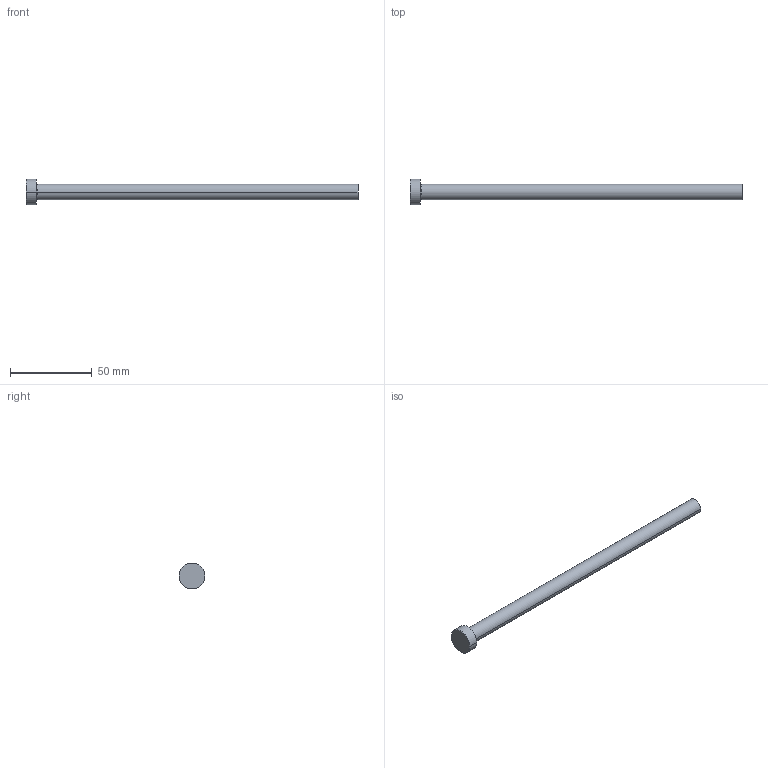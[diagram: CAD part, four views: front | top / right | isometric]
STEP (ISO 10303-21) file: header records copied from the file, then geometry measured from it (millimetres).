
FILE_DESCRIPTION (( 'STEP AP214' ), '1' );
FILE_NAME ('P25-8.STEP', '2020-03-12T09:55:34', ( '' ), ( '' ), 'SwSTEP 2.0', 'SolidWorks 2018', '' );
FILE_SCHEMA (( 'AUTOMOTIVE_DESIGN' ));
Length unit declared in the file: inch
Products named in the file (1): P25-8
Bounding box: 203.2 x 15.88 x 15.88 mm (x, y, z)
Volume: 15264.5 mm3; surface area: 6582.8 mm2
Topology: 1 solids, 1 shells, 13 faces, 24 edges, 14 vertices
Faces by surface type: cone 4, cylinder 4, plane 3, torus 2
Entity records: 366 total; most frequent: DIRECTION 68, CARTESIAN_POINT 52, ORIENTED_EDGE 48, AXIS2_PLACEMENT_3D 30, EDGE_CURVE 24, CIRCLE 16, VERTEX_POINT 14, EDGE_LOOP 14
